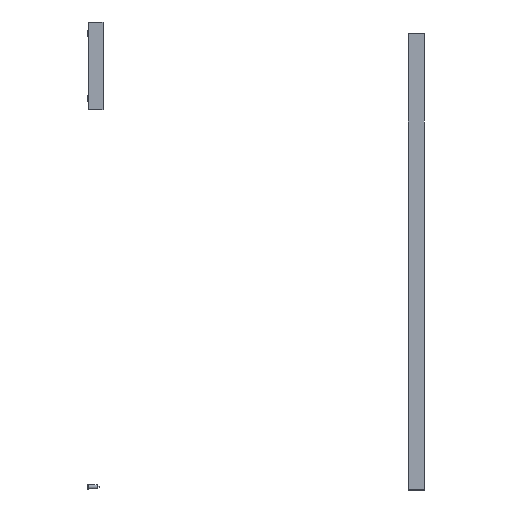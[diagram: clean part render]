
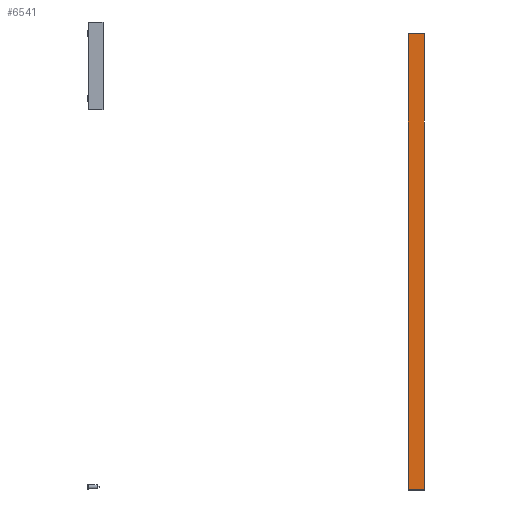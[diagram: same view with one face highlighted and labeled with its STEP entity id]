
A CAD part, left-side view. The second image highlights one B-rep face of the part: STEP entity #6541.
In plain terms, the highlighted planar face has unit normal (-1, 0, 0).
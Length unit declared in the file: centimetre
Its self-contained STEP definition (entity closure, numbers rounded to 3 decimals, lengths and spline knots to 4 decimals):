
#972=FACE_OUTER_BOUND('',#1382,.T.);
#1382=EDGE_LOOP('',(#5163,#5164,#5165,#5166));
#1809=LINE('',#9423,#2394);
#1883=LINE('',#9603,#2468);
#1884=LINE('',#9606,#2469);
#1885=LINE('',#9607,#2470);
#2394=VECTOR('',#8024,1.);
#2468=VECTOR('',#8192,1.);
#2469=VECTOR('',#8195,1.);
#2470=VECTOR('',#8196,1.);
#2989=VERTEX_POINT('',#9420);
#2990=VERTEX_POINT('',#9422);
#3049=VERTEX_POINT('',#9601);
#3050=VERTEX_POINT('',#9605);
#3724=EDGE_CURVE('',#2989,#2990,#1809,.T.);
#3816=EDGE_CURVE('',#2989,#3049,#1883,.T.);
#3817=EDGE_CURVE('',#3050,#3049,#1884,.T.);
#3818=EDGE_CURVE('',#2990,#3050,#1885,.T.);
#5163=ORIENTED_EDGE('',*,*,#3817,.F.);
#5164=ORIENTED_EDGE('',*,*,#3818,.F.);
#5165=ORIENTED_EDGE('',*,*,#3724,.F.);
#5166=ORIENTED_EDGE('',*,*,#3816,.T.);
#6252=PLANE('',#7102);
#6541=ADVANCED_FACE('',(#972),#6252,.T.);
#7102=AXIS2_PLACEMENT_3D('',#9604,#8193,#8194);
#8024=DIRECTION('',(0.,1.,0.));
#8192=DIRECTION('',(0.,0.,1.));
#8193=DIRECTION('center_axis',(-1.,0.,0.));
#8194=DIRECTION('ref_axis',(0.,-1.,0.));
#8195=DIRECTION('',(0.,-1.,0.));
#8196=DIRECTION('',(0.,0.,1.));
#9420=CARTESIAN_POINT('',(-0.34,-2.5,-70.));
#9422=CARTESIAN_POINT('',(-0.34,2.5,-70.));
#9423=CARTESIAN_POINT('',(-0.34,2.5,-70.));
#9601=CARTESIAN_POINT('',(-0.34,-2.5,70.));
#9603=CARTESIAN_POINT('',(-0.34,-2.5,0.));
#9604=CARTESIAN_POINT('Origin',(-0.34,2.5,0.));
#9605=CARTESIAN_POINT('',(-0.34,2.5,70.));
#9606=CARTESIAN_POINT('',(-0.34,2.5,70.));
#9607=CARTESIAN_POINT('',(-0.34,2.5,0.));
